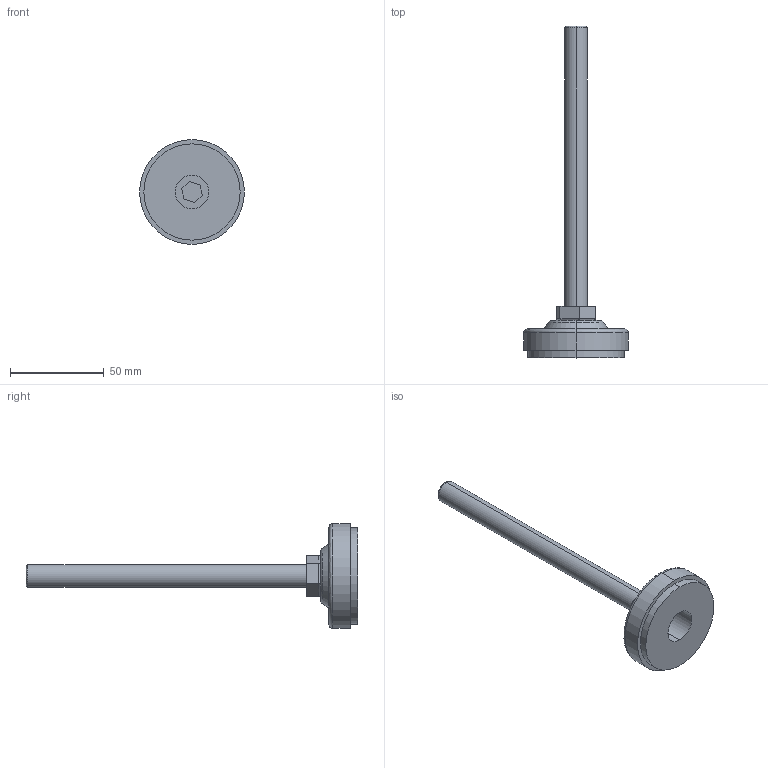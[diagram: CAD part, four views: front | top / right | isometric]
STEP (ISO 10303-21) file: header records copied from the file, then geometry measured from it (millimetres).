
FILE_DESCRIPTION (( 'STEP AP203' ), '1' );
FILE_NAME ('DY-D5512150.STEP', '2022-03-08T03:14:09', ( '' ), ( '' ), 'SwSTEP 2.0', 'SolidWorks 2017', '' );
FILE_SCHEMA (( 'CONFIG_CONTROL_DESIGN' ));
Length unit declared in the file: millimetre
Products named in the file (4): B60 base_預設; 六角螺絲 M6-10L_預設; 六角螺絲 M12-150L_預設; DY-D5512150
Assembly tree (3 placements, depth 2):
  DY-D5512150
    B60 base_預設
    六角螺絲 M6-10L_預設
    六角螺絲 M12-150L_預設
Bounding box: 56 x 177.5 x 56 mm (x, y, z)
Volume: 55041.2 mm3; surface area: 16063.5 mm2
Topology: 3 solids, 3 shells, 52 faces, 108 edges, 68 vertices
Faces by surface type: plane 24, cylinder 20, bspline 6, cone 2
Entity records: 2052 total; most frequent: CARTESIAN_POINT 552, DIRECTION 238, ORIENTED_EDGE 216, EDGE_CURVE 108, AXIS2_PLACEMENT_3D 90, VERTEX_POINT 68, EDGE_LOOP 60, VECTOR 58
